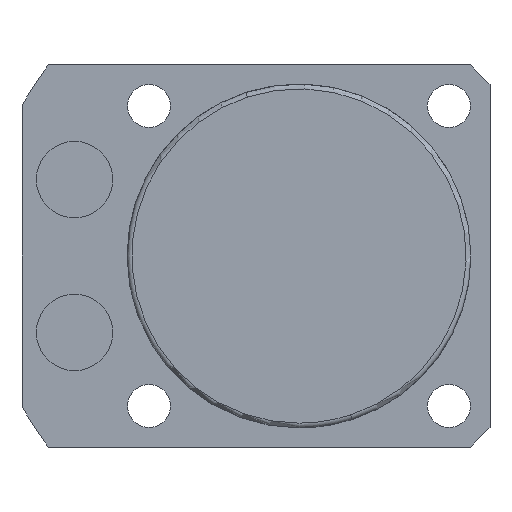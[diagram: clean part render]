
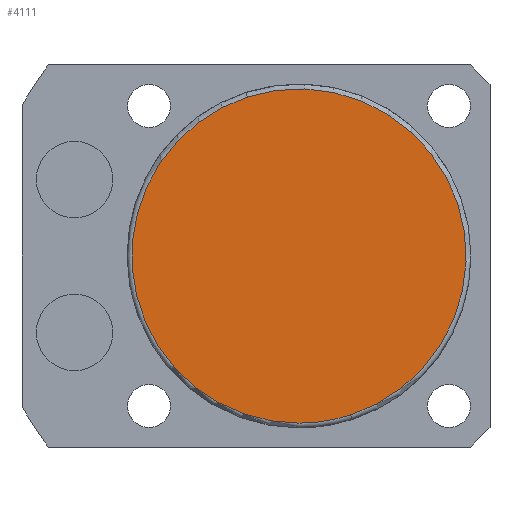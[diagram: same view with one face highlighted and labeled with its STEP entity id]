
A CAD part, front view. The second image highlights one B-rep face of the part: STEP entity #4111.
In plain terms, the highlighted planar face has unit normal (0, -1, 0).
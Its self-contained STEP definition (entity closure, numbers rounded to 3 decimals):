
#4077=CARTESIAN_POINT('',(0.0,-35.5,-17.5));
#4078=VERTEX_POINT('',#4077);
#4079=CARTESIAN_POINT('',(5.408,-35.5,-16.643));
#4080=VERTEX_POINT('',#4079);
#4081=CARTESIAN_POINT('',(0.0,-35.5,0.0));
#4082=DIRECTION('',(0.0,-1.0,0.0));
#4083=DIRECTION('',(0.0,0.0,-1.0));
#4084=AXIS2_PLACEMENT_3D('',#4081,#4082,#4083);
#4085=CIRCLE('',#4084,17.5);
#4086=EDGE_CURVE('no 2729',#4078,#4080,#4085,.T.);
#4087=ORIENTED_EDGE('',*,*,#4086,.T.);
#4088=CARTESIAN_POINT('',(-5.408,-35.5,16.643));
#4089=VERTEX_POINT('',#4088);
#4090=CARTESIAN_POINT('',(0.0,-35.5,0.0));
#4091=DIRECTION('',(0.0,-1.0,0.0));
#4092=DIRECTION('',(0.0,0.0,-1.0));
#4093=AXIS2_PLACEMENT_3D('',#4090,#4091,#4092);
#4094=CIRCLE('',#4093,17.5);
#4095=EDGE_CURVE('no 2735',#4080,#4089,#4094,.T.);
#4096=ORIENTED_EDGE('',*,*,#4095,.T.);
#4097=CARTESIAN_POINT('',(0.0,-35.5,0.0));
#4098=DIRECTION('',(0.0,-1.0,0.0));
#4099=DIRECTION('',(0.0,0.0,-1.0));
#4100=AXIS2_PLACEMENT_3D('',#4097,#4098,#4099);
#4101=CIRCLE('',#4100,17.5);
#4102=EDGE_CURVE('no 2739',#4089,#4078,#4101,.T.);
#4103=ORIENTED_EDGE('',*,*,#4102,.T.);
#4104=EDGE_LOOP('',(#4087,#4096,#4103));
#4105=FACE_OUTER_BOUND('',#4104,.T.);
#4106=CARTESIAN_POINT('',(0.0,-35.5,0.0));
#4107=DIRECTION('',(0.0,-1.0,0.0));
#4108=DIRECTION('',(0.0,0.0,-1.0));
#4109=AXIS2_PLACEMENT_3D('',#4106,#4107,#4108);
#4110=PLANE('',#4109);
#4111=ADVANCED_FACE('no 2720',(#4105),#4110,.T.);
